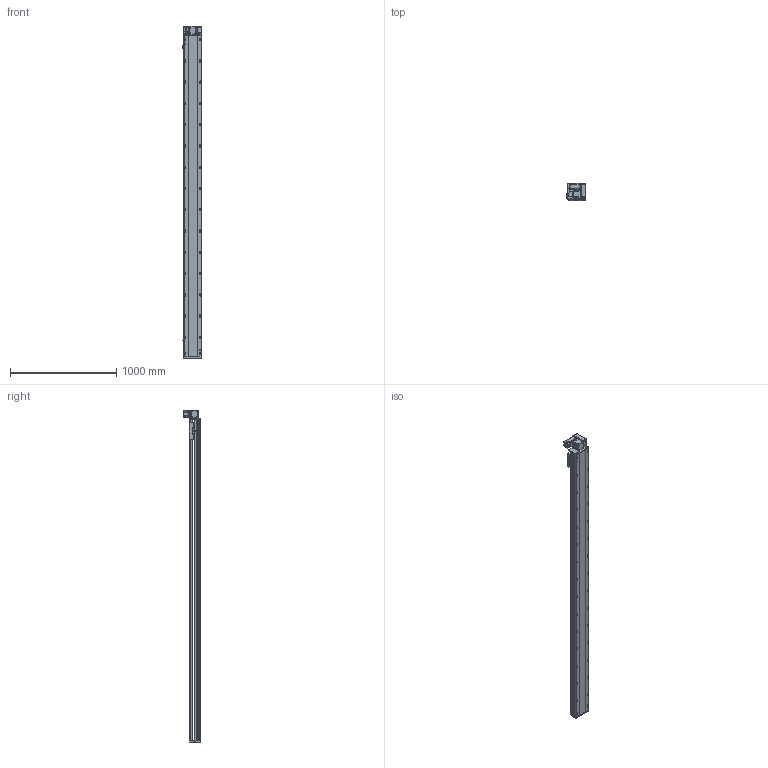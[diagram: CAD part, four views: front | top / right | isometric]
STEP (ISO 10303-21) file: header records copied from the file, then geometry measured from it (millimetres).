
FILE_DESCRIPTION (( 'STEP AP214' ), '1' );
FILE_NAME ('RTB17S-XX-2750-RW-M40-C4.STEP', '2025-12-11T09:15:27', ( '' ), ( '' ), 'SwSTEP 2.0', 'SolidWorks 2018', '' );
FILE_SCHEMA (( 'AUTOMOTIVE_DESIGN' ));
Length unit declared in the file: millimetre
Products named in the file (14): RTB14-L-005P--轴承塑胶压盖^RTB17S-RW-皮带座装配-400W_RTB17S-XX-XX-RW-M40-C4; RTB14-L-017P^RTB17S-RW-々湍釱蚾饜-400W_RTB17S-XX-XX-RW-M40-C4; RTB17S-L-004佪裝蹟譫蟀諉釱^RTB17S-XX-XX-RW-M40-C4; RMP17S-L-014-T20--々湍釱^RTB17S-RW-々湍釱蚾饜-400W_RTB17S-XX-XX-RW-M40-C4; RTB17S-L-001耜醱啣^RTB17S-XX-XX-RW-M40-C4; 400W侜督萇儂^RTB17S-XX-XX-RW-M40-C4; RTH13-BL-012覜茼え俋离^RTB17S-XX-XX-RW-M40-C4; RTB17S-L-007奻裔^RTB17S-XX-XX-RW-M40-C4; RTB17-R-011菁釱^RTB17S-XX-XX-RW-M40-C4; RTB17S-XX-2750-RW-M40-C4; RTB14-L-008-M20--萇儂啣^RTB17S-RW-々湍釱蚾饜-400W_RTB17S-XX-XX-RW-M40-C4; OMRON EE-SX672 传感器^RTB17S-XX-XX-RW-M40-C4; RTB14-L-018P^RTB17S-RW-々湍釱蚾饜-400W_RTB17S-XX-XX-RW-M40-C4; RTB17S-RW-々湍釱蚾饜-400W^RTB17S-XX-XX-RW-M40-C4
Assembly tree (16 placements, depth 3):
  RTB17S-XX-2750-RW-M40-C4
    RTB17-R-011菁釱^RTB17S-XX-XX-RW-M40-C4
    RTB17S-L-007奻裔^RTB17S-XX-XX-RW-M40-C4
    OMRON EE-SX672 传感器^RTB17S-XX-XX-RW-M40-C4  x3
    RTB17S-L-001耜醱啣^RTB17S-XX-XX-RW-M40-C4
    400W侜督萇儂^RTB17S-XX-XX-RW-M40-C4
    RTB17S-L-004佪裝蹟譫蟀諉釱^RTB17S-XX-XX-RW-M40-C4
    RTH13-BL-012覜茼え俋离^RTB17S-XX-XX-RW-M40-C4
    RTB17S-RW-々湍釱蚾饜-400W^RTB17S-XX-XX-RW-M40-C4
      RMP17S-L-014-T20--々湍釱^RTB17S-RW-々湍釱蚾饜-400W_RTB17S-XX-XX-RW-M40-C4
      RTB14-L-005P--轴承塑胶压盖^RTB17S-RW-皮带座装配-400W_RTB17S-XX-XX-RW-M40-C4
      RTB14-L-008-M20--萇儂啣^RTB17S-RW-々湍釱蚾饜-400W_RTB17S-XX-XX-RW-M40-C4
      RTB14-L-017P^RTB17S-RW-々湍釱蚾饜-400W_RTB17S-XX-XX-RW-M40-C4  x2
      RTB14-L-018P^RTB17S-RW-々湍釱蚾饜-400W_RTB17S-XX-XX-RW-M40-C4
Bounding box: 183.5 x 160.5 x 3122.5 mm (x, y, z)
Volume: 26645448.9 mm3; surface area: 3054324.8 mm2
Topology: 15 solids, 15 shells, 2349 faces, 6573 edges, 4293 vertices
Faces by surface type: plane 1086, cylinder 815, bspline 301, cone 139, torus 8
Entity records: 69545 total; most frequent: CARTESIAN_POINT 19778, ORIENTED_EDGE 9990, DIRECTION 9206, EDGE_CURVE 4995, VERTEX_POINT 3281, AXIS2_PLACEMENT_3D 3211, LINE 2784, VECTOR 2784
